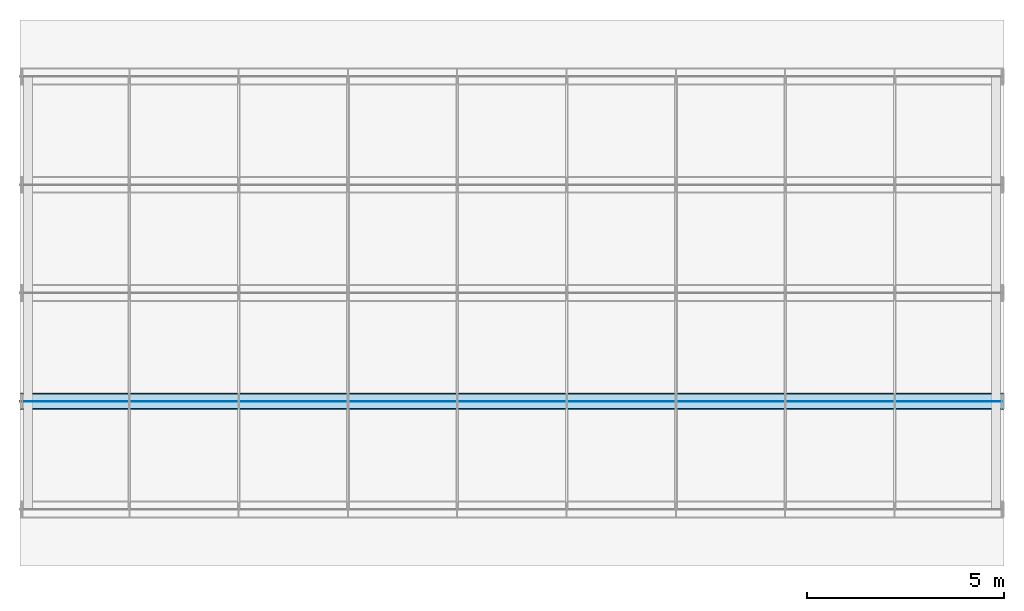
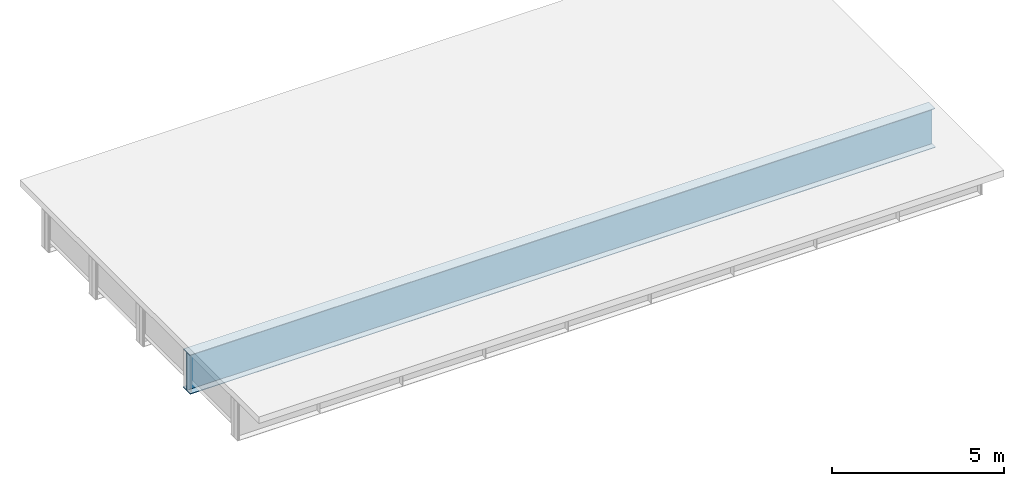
# One storey, part 6 of 13: 3 plates.
"""IFC4 building model written with IfcOpenShell, lengths in metres."""

from ifc_helpers import new_model, si_unit, frame, origin, origin_with_axes, origin_2d_with_axis, place, context, subcontext, project, spatial, rectangle, extrude, element, save


model = new_model("IFC4")

# Units and contexts
model_context = context("Model", 3, precision=1e-05, world=origin())
body_context = subcontext(model_context, "Body", "Model", "MODEL_VIEW")
ifc_project = project(units=[si_unit("LENGTHUNIT", "METRE"), si_unit("AREAUNIT", "SQUARE_METRE"), si_unit("VOLUMEUNIT", "CUBIC_METRE"), si_unit("PLANEANGLEUNIT", "RADIAN")], contexts=[model_context])

# Site, building, storey
site_placement = place(None, origin_with_axes())
site = spatial("IfcSite", under=ifc_project, at=site_placement, Name="Default Site")
building_placement = place(site_placement, origin_with_axes())
building = spatial("IfcBuilding", under=site, at=building_placement, Name="Bridge Structure")
storey_placement = place(building_placement, origin_with_axes())
storey = spatial("IfcBuildingStorey", under=building, at=storey_placement, Name="Superstructure")

# Plates
plate_1_placement = place(storey_placement, frame((0.0, -2.75, 0.0), z_axis=(1.0, 0.0, 0.0), x_axis=(0.0, 1.0, 0.0)))
element("IfcPlate", 1, at=plate_1_placement, inside=storey, Name="Girder Web 2", context=body_context, shape_type="SweptSolid", body=[
    extrude(rectangle(XDim=0.012, YDim=1.339, at=origin_2d_with_axis()), origin_with_axes(), (0.0, 0.0, 1.0), 25.0),
])
plate_2_placement = place(storey_placement, frame((0.0, -2.75, 0.6775), z_axis=(1.0, 0.0, 0.0), x_axis=(0.0, 1.0, 0.0)))
element("IfcPlate", 2, at=plate_2_placement, inside=storey, Name="Top Flange 2", context=body_context, shape_type="SweptSolid", body=[
    extrude(rectangle(XDim=0.375, YDim=0.016, at=origin_2d_with_axis()), origin_with_axes(), (0.0, 0.0, 1.0), 25.0),
])
plate_3_placement = place(storey_placement, frame((0.0, -2.75, -0.6795), z_axis=(1.0, 0.0, 0.0), x_axis=(0.0, 1.0, 0.0)))
element("IfcPlate", 3, at=plate_3_placement, inside=storey, Name="Bottom Flange 2", context=body_context, shape_type="SweptSolid", body=[
    extrude(rectangle(XDim=0.425, YDim=0.02, at=origin_2d_with_axis()), origin_with_axes(), (0.0, 0.0, 1.0), 25.0),
])

save(model, "model.ifc")
